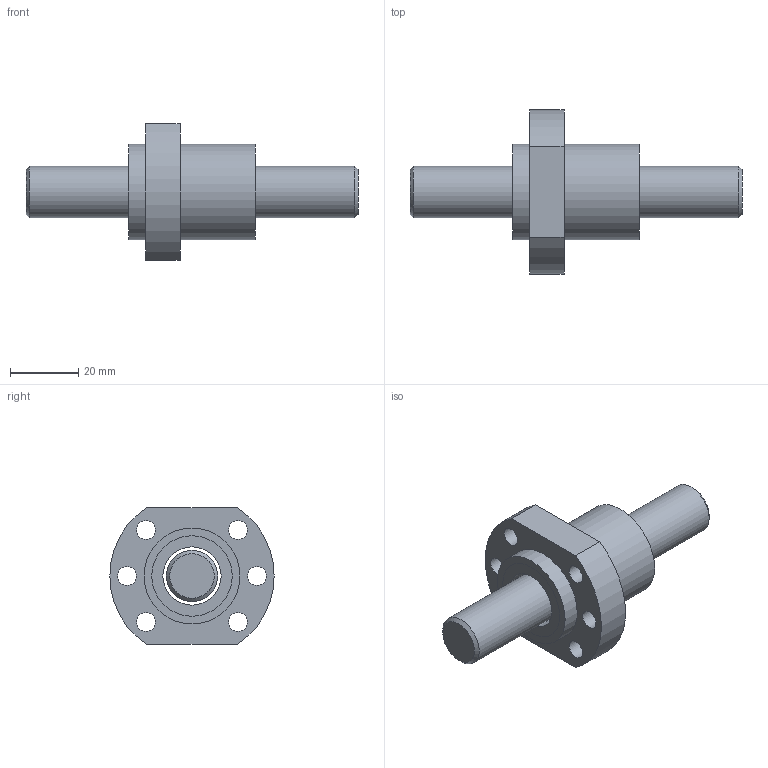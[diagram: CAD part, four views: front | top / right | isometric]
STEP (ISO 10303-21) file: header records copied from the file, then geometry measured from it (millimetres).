
FILE_DESCRIPTION(/* description */ (''),/* implementation_level */ '2;1');
FILE_NAME(/* name */ 'SFH1605-3.8.stp',/* time_stamp */ '2014-10-15T12:01:16+08:00',/* author */ (''),/* organization */ (''),/* preprocessor_version */ 'ST-DEVELOPER v11',/* originating_system */ 'SIEMENS UGS NX 6.0',/* authorisation */ '');
FILE_SCHEMA (('CONFIG_CONTROL_DESIGN'));
Length unit declared in the file: millimetre
Products named in the file (1): fannB1F9gmb5
Bounding box: 97 x 48 x 40 mm (x, y, z)
Volume: 40552.9 mm3; surface area: 17598.7 mm2
Topology: 4 solids, 4 shells, 50 faces, 90 edges, 60 vertices
Faces by surface type: cylinder 26, plane 22, cone 2
Full cylindrical faces by diameter (mm): 5.5 x6, 15 x1, 17 x3, 20 x4, 23.5 x4, 25 x4, 28 x2
Entity records: 1216 total; most frequent: DIRECTION 218, CARTESIAN_POINT 171, ORIENTED_EDGE 124, EDGE_LOOP 106, AXIS2_PLACEMENT_3D 105, FACE_BOUND 100, EDGE_CURVE 62, VERTEX_POINT 58
